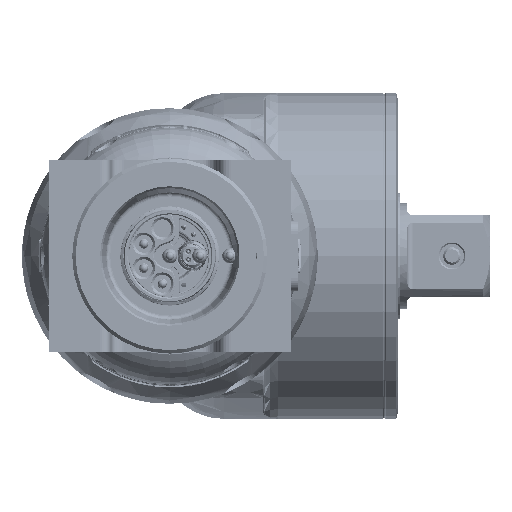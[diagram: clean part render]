
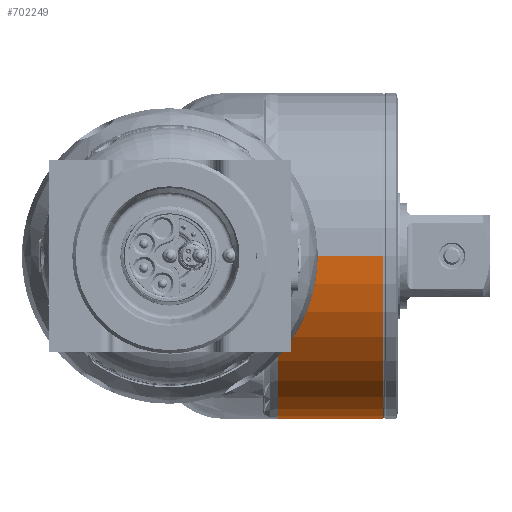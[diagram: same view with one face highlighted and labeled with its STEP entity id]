
A CAD part, left-side view. The second image highlights one B-rep face of the part: STEP entity #702249.
In plain terms, the highlighted cylindrical face has radius 38 mm (diameter 76 mm), a partial arc.
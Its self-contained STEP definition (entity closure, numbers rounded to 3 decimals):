
#695106=CARTESIAN_POINT('',(0.,-12.566,0.));
#695107=DIRECTION('',(0.,1.,0.));
#695108=DIRECTION('',(1.,0.,0.));
#695109=AXIS2_PLACEMENT_3D('',#695106,#695107,#695108);
#695450=CARTESIAN_POINT('',(-0.001,-25.2,
-38.));
#695452=DIRECTION('',(0.,1.,0.));
#695453=VECTOR('',#695452,12.634);
#695454=CARTESIAN_POINT('',(-0.001,-25.2,
-38.));
#695455=LINE('',#695454,#695453);
#695471=CARTESIAN_POINT('',(0.,-49.7,0.));
#695472=DIRECTION('',(0.,1.,0.));
#695473=DIRECTION('',(1.,0.,0.));
#695474=AXIS2_PLACEMENT_3D('',#695471,#695472,#695473);
#695476=DIRECTION('',(0.,1.,0.));
#695477=VECTOR('',#695476,37.134);
#695478=CARTESIAN_POINT('',(38.,-49.7,0.));
#695479=LINE('',#695478,#695477);
#695480=CARTESIAN_POINT('',(0.,-25.2,0.));
#695481=DIRECTION('',(0.,1.,0.));
#695482=DIRECTION('',(0.,0.,-1.));
#695483=AXIS2_PLACEMENT_3D('',#695480,#695481,#695482);
#695485=DIRECTION('',(0.,1.,0.));
#695486=VECTOR('',#695485,24.5);
#695487=CARTESIAN_POINT('',(-38.,-49.7,0.));
#695488=LINE('',#695487,#695486);
#701125=CARTESIAN_POINT('',(38.,-12.566,0.));
#701127=VERTEX_POINT('',#701125);
#701129=CARTESIAN_POINT('',(0.,-12.566,-38.));
#701130=VERTEX_POINT('',#701129);
#701182=VERTEX_POINT('',#695450);
#701205=CARTESIAN_POINT('',(-38.,-25.2,0.));
#701206=VERTEX_POINT('',#701205);
#701261=CARTESIAN_POINT('',(-38.,-49.7,0.));
#701262=CARTESIAN_POINT('',(38.,-49.7,0.));
#701263=VERTEX_POINT('',#701261);
#701264=VERTEX_POINT('',#701262);
#702232=CARTESIAN_POINT('',(0.,17.51,0.));
#702233=DIRECTION('',(0.,-1.,0.));
#702234=DIRECTION('',(-1.,0.,0.));
#702235=AXIS2_PLACEMENT_3D('',#702232,#702233,#702234);
#702236=CYLINDRICAL_SURFACE('',#702235,38.);
#702238=ORIENTED_EDGE('',*,*,#702237,.F.);
#702240=ORIENTED_EDGE('',*,*,#702239,.T.);
#702241=ORIENTED_EDGE('',*,*,#701734,.T.);
#702242=ORIENTED_EDGE('',*,*,#702223,.F.);
#702244=ORIENTED_EDGE('',*,*,#702243,.T.);
#702246=ORIENTED_EDGE('',*,*,#702245,.F.);
#702247=EDGE_LOOP('',(#702238,#702240,#702241,#702242,#702244,#702246));
#702248=FACE_OUTER_BOUND('',#702247,.F.);
#702249=ADVANCED_FACE('',(#702248),#702236,.T.);
#695110=CIRCLE('',#695109,38.);
#695475=CIRCLE('',#695474,38.);
#695484=CIRCLE('',#695483,38.);
#701734=EDGE_CURVE('',#701127,#701130,#695110,.T.);
#702223=EDGE_CURVE('',#701182,#701130,#695455,.T.);
#702237=EDGE_CURVE('',#701264,#701263,#695475,.T.);
#702239=EDGE_CURVE('',#701264,#701127,#695479,.T.);
#702243=EDGE_CURVE('',#701182,#701206,#695484,.T.);
#702245=EDGE_CURVE('',#701263,#701206,#695488,.T.);
